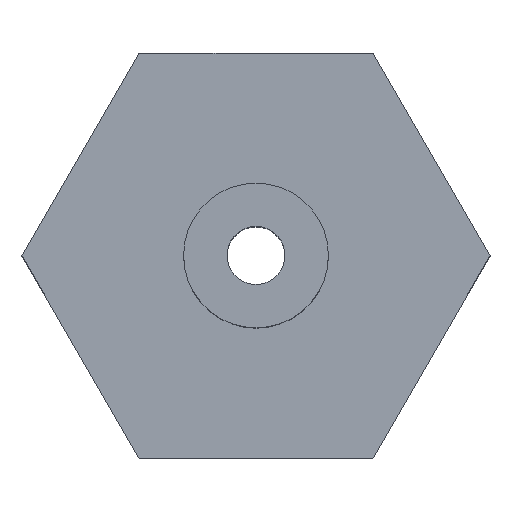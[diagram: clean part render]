
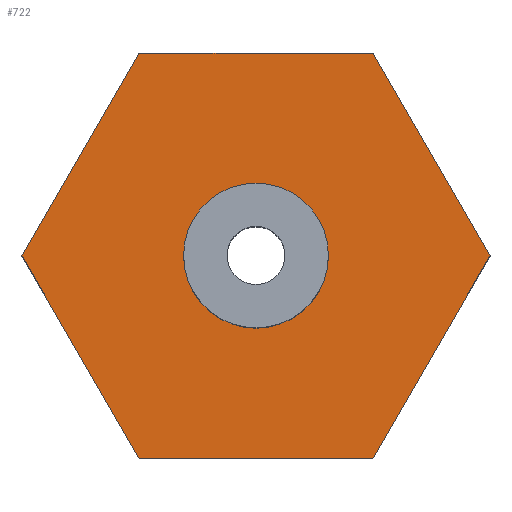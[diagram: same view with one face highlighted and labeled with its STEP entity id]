
A CAD part, top view. The second image highlights one B-rep face of the part: STEP entity #722.
In plain terms, the highlighted planar face has unit normal (0, 0, 1).
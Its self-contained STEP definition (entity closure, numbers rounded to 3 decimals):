
#17 = DIRECTION ( 'NONE',  ( 0.5, -0.866, 0. ) ) ;
#30 = AXIS2_PLACEMENT_3D ( 'NONE', #63, #320, #251 ) ;
#36 = EDGE_CURVE ( 'NONE', #521, #748, #172, .T. ) ;
#47 = VERTEX_POINT ( 'NONE', #643 ) ;
#51 = EDGE_CURVE ( 'NONE', #622, #776, #296, .T. ) ;
#63 = CARTESIAN_POINT ( 'NONE',  ( 0., 0., 5. ) ) ;
#71 = VECTOR ( 'NONE', #508, 1000. ) ;
#132 = VECTOR ( 'NONE', #756, 1000. ) ;
#140 = EDGE_CURVE ( 'NONE', #676, #374, #651, .T. ) ;
#146 = ORIENTED_EDGE ( 'NONE', *, *, #51, .F. ) ;
#167 = CARTESIAN_POINT ( 'NONE',  ( 8.083, 0., 5. ) ) ;
#172 = LINE ( 'NONE', #175, #509 ) ;
#174 = ORIENTED_EDGE ( 'NONE', *, *, #36, .T. ) ;
#175 = CARTESIAN_POINT ( 'NONE',  ( 4.041, 7., 5. ) ) ;
#189 = ORIENTED_EDGE ( 'NONE', *, *, #587, .T. ) ;
#204 = CARTESIAN_POINT ( 'NONE',  ( 4.041, -7., 5. ) ) ;
#224 = VECTOR ( 'NONE', #753, 1000. ) ;
#246 = PLANE ( 'NONE',  #698 ) ;
#247 = CARTESIAN_POINT ( 'NONE',  ( 2.5, 0., 5. ) ) ;
#248 = EDGE_CURVE ( 'NONE', #374, #47, #484, .T. ) ;
#251 = DIRECTION ( 'NONE',  ( 1., 0., 0. ) ) ;
#254 = VECTOR ( 'NONE', #532, 1000. ) ;
#261 = CARTESIAN_POINT ( 'NONE',  ( -4.041, -7., 5. ) ) ;
#296 = CIRCLE ( 'NONE', #578, 2.5 ) ;
#298 = VERTEX_POINT ( 'NONE', #167 ) ;
#306 = CARTESIAN_POINT ( 'NONE',  ( 0., 0., 5. ) ) ;
#312 = VECTOR ( 'NONE', #17, 1000. ) ;
#320 = DIRECTION ( 'NONE',  ( 0., 0., 1. ) ) ;
#329 = CARTESIAN_POINT ( 'NONE',  ( -8.083, 0., 5. ) ) ;
#335 = EDGE_LOOP ( 'NONE', ( #146, #357 ) ) ;
#357 = ORIENTED_EDGE ( 'NONE', *, *, #365, .F. ) ;
#358 = CARTESIAN_POINT ( 'NONE',  ( -8.083, 0., 5. ) ) ;
#363 = EDGE_LOOP ( 'NONE', ( #711, #661, #174, #189, #606, #506 ) ) ;
#365 = EDGE_CURVE ( 'NONE', #776, #622, #726, .T. ) ;
#374 = VERTEX_POINT ( 'NONE', #261 ) ;
#384 = EDGE_CURVE ( 'NONE', #298, #521, #697, .T. ) ;
#430 = LINE ( 'NONE', #808, #132 ) ;
#432 = DIRECTION ( 'NONE',  ( 1., 0., 0. ) ) ;
#451 = DIRECTION ( 'NONE',  ( -1., 0., 0. ) ) ;
#484 = LINE ( 'NONE', #623, #224 ) ;
#499 = FACE_BOUND ( 'NONE', #335, .T. ) ;
#506 = ORIENTED_EDGE ( 'NONE', *, *, #248, .T. ) ;
#507 = DIRECTION ( 'NONE',  ( 0., 0., 1. ) ) ;
#508 = DIRECTION ( 'NONE',  ( -0.5, 0.866, 0. ) ) ;
#509 = VECTOR ( 'NONE', #451, 1000. ) ;
#521 = VERTEX_POINT ( 'NONE', #805 ) ;
#532 = DIRECTION ( 'NONE',  ( 0.5, 0.866, 0. ) ) ;
#545 = EDGE_CURVE ( 'NONE', #47, #298, #765, .T. ) ;
#578 = AXIS2_PLACEMENT_3D ( 'NONE', #584, #837, #432 ) ;
#584 = CARTESIAN_POINT ( 'NONE',  ( 0., 0., 5. ) ) ;
#587 = EDGE_CURVE ( 'NONE', #748, #676, #430, .T. ) ;
#606 = ORIENTED_EDGE ( 'NONE', *, *, #140, .T. ) ;
#622 = VERTEX_POINT ( 'NONE', #817 ) ;
#623 = CARTESIAN_POINT ( 'NONE',  ( -4.041, -7., 5. ) ) ;
#631 = DIRECTION ( 'NONE',  ( 1., 0., 0. ) ) ;
#640 = CARTESIAN_POINT ( 'NONE',  ( 8.083, 0., 5. ) ) ;
#643 = CARTESIAN_POINT ( 'NONE',  ( 4.041, -7., 5. ) ) ;
#651 = LINE ( 'NONE', #329, #312 ) ;
#661 = ORIENTED_EDGE ( 'NONE', *, *, #384, .T. ) ;
#676 = VERTEX_POINT ( 'NONE', #358 ) ;
#697 = LINE ( 'NONE', #640, #71 ) ;
#698 = AXIS2_PLACEMENT_3D ( 'NONE', #306, #507, #631 ) ;
#711 = ORIENTED_EDGE ( 'NONE', *, *, #545, .T. ) ;
#722 = ADVANCED_FACE ( 'NONE', ( #499, #768 ), #246, .T. ) ;
#726 = CIRCLE ( 'NONE', #30, 2.5 ) ;
#748 = VERTEX_POINT ( 'NONE', #823 ) ;
#753 = DIRECTION ( 'NONE',  ( 1., 0., 0. ) ) ;
#756 = DIRECTION ( 'NONE',  ( -0.5, -0.866, 0. ) ) ;
#765 = LINE ( 'NONE', #204, #254 ) ;
#768 = FACE_OUTER_BOUND ( 'NONE', #363, .T. ) ;
#776 = VERTEX_POINT ( 'NONE', #247 ) ;
#805 = CARTESIAN_POINT ( 'NONE',  ( 4.041, 7., 5. ) ) ;
#808 = CARTESIAN_POINT ( 'NONE',  ( -4.041, 7., 5. ) ) ;
#817 = CARTESIAN_POINT ( 'NONE',  ( -2.5, 0., 5. ) ) ;
#823 = CARTESIAN_POINT ( 'NONE',  ( -4.041, 7., 5. ) ) ;
#837 = DIRECTION ( 'NONE',  ( 0., 0., 1. ) ) ;
